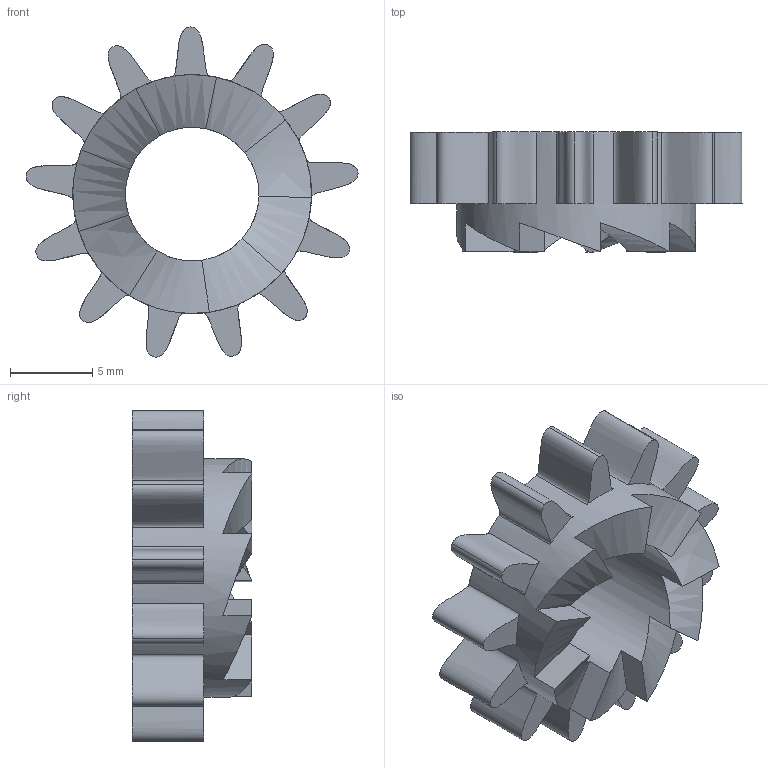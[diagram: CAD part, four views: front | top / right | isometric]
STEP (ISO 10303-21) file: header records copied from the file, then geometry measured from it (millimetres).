
FILE_DESCRIPTION(/* description */ (''),/* implementation_level */ '2;1');
FILE_NAME(/* name */ 'D:\Desktop\WatchCAdFiles\print2endTime\5.8\Solid17.stp',/* time_stamp */ '2019-05-02T17:04:00+02:00',/* author */ ('fkhad'),/* organization */ (''),/* preprocessor_version */ 'ST-DEVELOPER v17',/* originating_system */ 'Autodesk Inventor 2018',/* authorisation */ '');
FILE_SCHEMA (('AUTOMOTIVE_DESIGN { 1 0 10303 214 3 1 1 }'));
Length unit declared in the file: inch
Products named in the file (1): Solid17
Bounding box: 20.16 x 7.27 x 20.04 mm (x, y, z)
Volume: 966.7 mm3; surface area: 1111.3 mm2
Topology: 1 solids, 1 shells, 60 faces, 178 edges, 119 vertices
Faces by surface type: bspline 35, plane 23, cylinder 2
Full cylindrical faces by diameter (mm): 8.12 x1, 14.5 x1
Entity records: 2503 total; most frequent: CARTESIAN_POINT 1026, ORIENTED_EDGE 356, EDGE_CURVE 178, DIRECTION 178, VERTEX_POINT 119, B_SPLINE_CURVE_WITH_KNOTS 81, LINE 68, VECTOR 68
